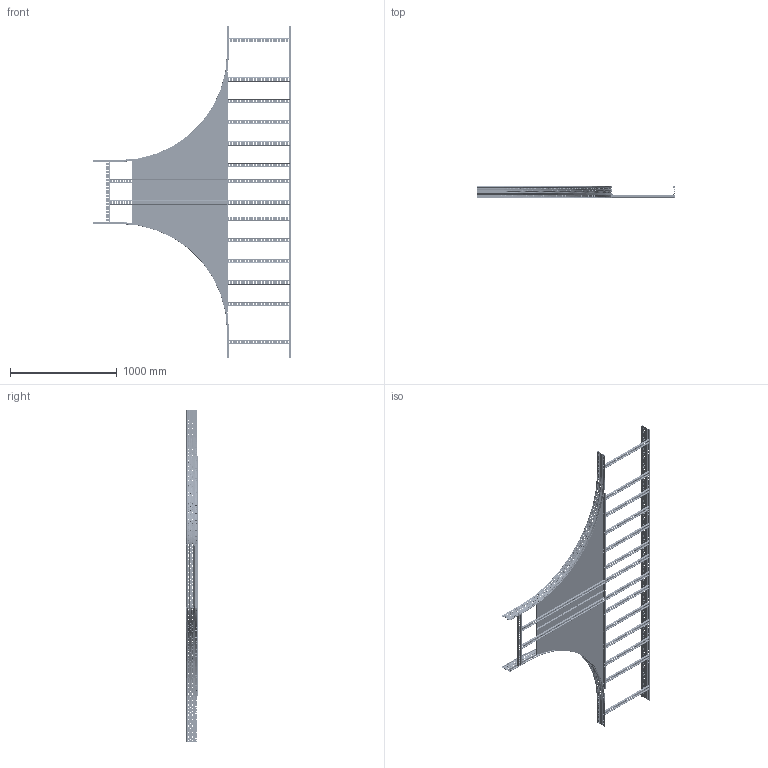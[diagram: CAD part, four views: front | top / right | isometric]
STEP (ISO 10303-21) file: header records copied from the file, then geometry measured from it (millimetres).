
FILE_DESCRIPTION (( 'STEP AP203' ), '1' );
FILE_NAME ('ULT116 (R1000).STEP', '2015-03-30T13:27:05', ( '' ), ( '' ), 'SwSTEP 2.0', 'SolidWorks 2014', '' );
FILE_SCHEMA (( 'CONFIG_CONTROL_DESIGN' ));
Length unit declared in the file: millimetre
Products named in the file (8): 呧翲歑鍙 碴麔謥臇鴇 100 R1000; Traversino 39x19x1.5_1_600:(1,5); ëîíæåðîí ïðÿìîé H100 R1000_2918.7; òðàâåðñà ñïåö.èñïîëíåíèÿ_R1000 600 1682.95; Îñíîâàíèå äëÿ Ò-îòâåòâèòåëÿ R1000 ëåâàÿ 900_base DPT DPX 1,0-600; Çåðêàëüíî îòðàçèòüÎñíîâàíèå äëÿ Ò-îòâåòâèòåëÿ R1000 ëåâàÿ 900_base DPT DPX 1,0-600; Ñáîðêà îñíîâàíèÿ ò-îòâåòâèòåëÿ_600; ULT116 (R1000)
Assembly tree (21 placements, depth 3):
  ULT116 (R1000)
    呧翲歑鍙 碴麔謥臇鴇 100 R1000  x2
    Traversino 39x19x1.5_1_600:(1,5)  x13
    ëîíæåðîí ïðÿìîé H100 R1000_2918.7
    òðàâåðñà ñïåö.èñïîëíåíèÿ_R1000 600 1682.95  x2
    Ñáîðêà îñíîâàíèÿ ò-îòâåòâèòåëÿ_600
      Îñíîâàíèå äëÿ Ò-îòâåòâèòåëÿ R1000 ëåâàÿ 900_base DPT DPX 1,0-600
      Çåðêàëüíî îòðàçèòüÎñíîâàíèå äëÿ Ò-îòâåòâèòåëÿ R1000 ëåâàÿ 900_base DPT DPX 1,0-600
Bounding box: 1858.7 x 103.99 x 3114.4 mm (x, y, z)
Volume: 4812676.1 mm3; surface area: 6570008.8 mm2
Topology: 20 solids, 20 shells, 12390 faces, 34856 edges, 22686 vertices
Faces by surface type: plane 6220, cylinder 5140, bspline 970, torus 52, cone 8
Entity records: 210803 total; most frequent: CARTESIAN_POINT 62807, ORIENTED_EDGE 31932, DIRECTION 28205, EDGE_CURVE 15966, VERTEX_POINT 10469, AXIS2_PLACEMENT_3D 9413, LINE 9379, VECTOR 9379
